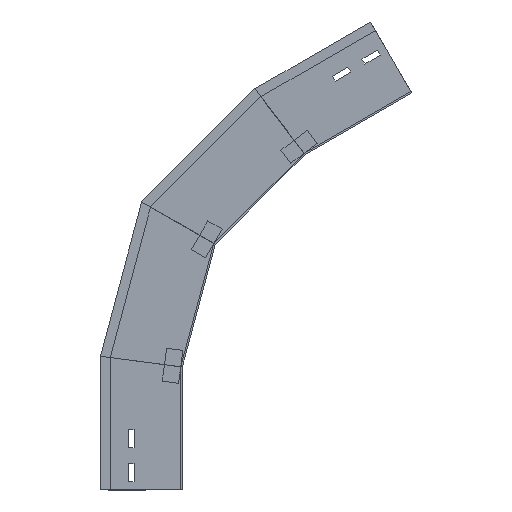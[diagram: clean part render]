
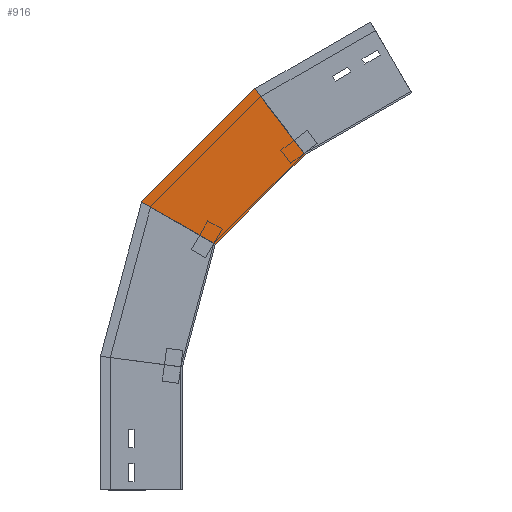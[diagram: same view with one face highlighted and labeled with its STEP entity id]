
A CAD part, left-side view. The second image highlights one B-rep face of the part: STEP entity #916.
In plain terms, the highlighted planar face has unit normal (-1, 0, 0) as drawn and (1, 0, 0) by its records, which use the part's own axes.
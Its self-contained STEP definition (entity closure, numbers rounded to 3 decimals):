
#3 = PLANE ( 'NONE',  #1683 ) ;
#4 = CARTESIAN_POINT ( 'NONE',  ( 0., 3.774, 135.915 ) ) ;
#64 = CARTESIAN_POINT ( 'NONE',  ( 0., 100.367, 161.797 ) ) ;
#94 = CARTESIAN_POINT ( 'NONE',  ( 0., 0., 150. ) ) ;
#96 = LINE ( 'NONE', #4, #767 ) ;
#139 = CARTESIAN_POINT ( 'NONE',  ( 0., -19.411, 147.444 ) ) ;
#145 = EDGE_CURVE ( 'NONE', #1191, #1545, #96, .T. ) ;
#148 = CARTESIAN_POINT ( 'NONE',  ( 0., -78.128, 277.773 ) ) ;
#210 = LINE ( 'NONE', #64, #1454 ) ;
#276 = CARTESIAN_POINT ( 'NONE',  ( 0., 100., 163.165 ) ) ;
#322 = EDGE_CURVE ( 'NONE', #1399, #669, #210, .T. ) ;
#449 = ORIENTED_EDGE ( 'NONE', *, *, #145, .F. ) ;
#563 = DIRECTION ( 'NONE',  ( 0., 0., -1. ) ) ;
#669 = VERTEX_POINT ( 'NONE', #1297 ) ;
#678 = CARTESIAN_POINT ( 'NONE',  ( 0., 3.774, 135.915 ) ) ;
#767 = VECTOR ( 'NONE', #1442, 1000. ) ;
#882 = CARTESIAN_POINT ( 'NONE',  ( 0., -40.117, 299.719 ) ) ;
#888 = LINE ( 'NONE', #148, #1246 ) ;
#916 = ADVANCED_FACE ( 'NONE', ( #1168 ), #3, .T. ) ;
#1000 = DIRECTION ( 'NONE',  ( 0., -0.259, 0.966 ) ) ;
#1071 = VECTOR ( 'NONE', #1327, 1000. ) ;
#1135 = ORIENTED_EDGE ( 'NONE', *, *, #322, .T. ) ;
#1168 = FACE_OUTER_BOUND ( 'NONE', #1248, .T. ) ;
#1174 = LINE ( 'NONE', #139, #1071 ) ;
#1183 = DIRECTION ( 'NONE',  ( 0., -0.866, -0.5 ) ) ;
#1191 = VERTEX_POINT ( 'NONE', #94 ) ;
#1246 = VECTOR ( 'NONE', #1183, 1000. ) ;
#1248 = EDGE_LOOP ( 'NONE', ( #1135, #1536, #449, #1529 ) ) ;
#1297 = CARTESIAN_POINT ( 'NONE',  ( 0., 49.541, 351.482 ) ) ;
#1309 = DIRECTION ( 'NONE',  ( 1., 0., 0. ) ) ;
#1327 = DIRECTION ( 'NONE',  ( 0., -0.991, -0.131 ) ) ;
#1390 = EDGE_CURVE ( 'NONE', #1399, #1191, #1174, .T. ) ;
#1399 = VERTEX_POINT ( 'NONE', #276 ) ;
#1442 = DIRECTION ( 'NONE',  ( 0., -0.259, 0.966 ) ) ;
#1454 = VECTOR ( 'NONE', #1000, 1000. ) ;
#1529 = ORIENTED_EDGE ( 'NONE', *, *, #1390, .F. ) ;
#1536 = ORIENTED_EDGE ( 'NONE', *, *, #1618, .T. ) ;
#1545 = VERTEX_POINT ( 'NONE', #882 ) ;
#1618 = EDGE_CURVE ( 'NONE', #669, #1545, #888, .T. ) ;
#1683 = AXIS2_PLACEMENT_3D ( 'NONE', #678, #1309, #563 ) ;
